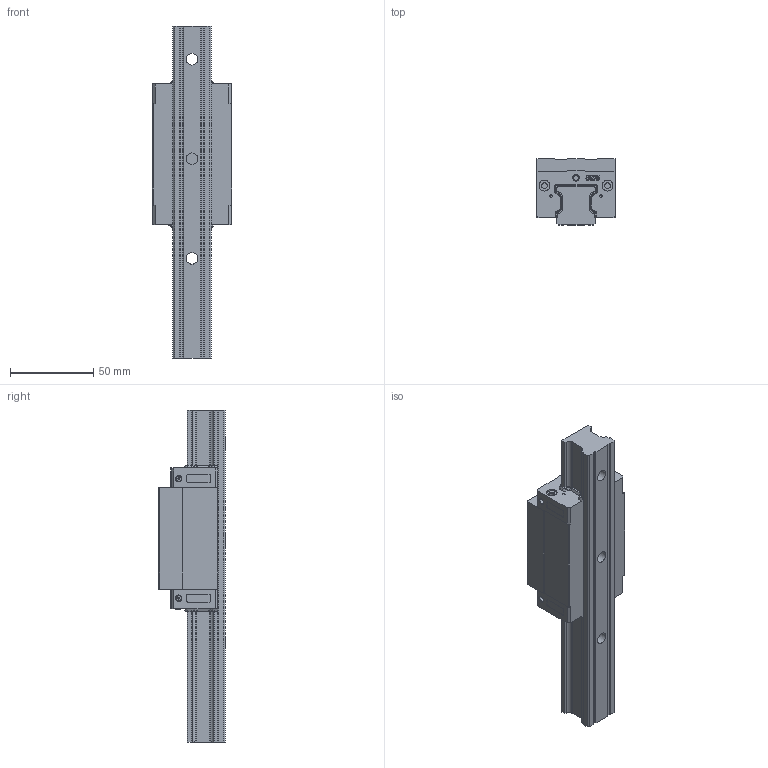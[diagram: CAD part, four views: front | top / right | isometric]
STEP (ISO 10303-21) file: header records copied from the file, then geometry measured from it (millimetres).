
FILE_DESCRIPTION(/* description */ (''),/* implementation_level */ '2;1');
FILE_NAME(/* name */ 'SGH25B.stp',/* time_stamp */ '2021-05-27T16:17:27+08:00',/* author */ (''),/* organization */ (''),/* preprocessor_version */ 'ST-DEVELOPER v15',/* originating_system */ 'SIEMENS PLM Software NX 8.5',/* authorisation */ '');
FILE_SCHEMA (('CONFIG_CONTROL_DESIGN'));
Length unit declared in the file: millimetre
Products named in the file (1): SGH25B
Bounding box: 48 x 40 x 200 mm (x, y, z)
Volume: 187262.5 mm3; surface area: 44818.9 mm2
Topology: 2 solids, 6 shells, 481 faces, 1296 edges, 870 vertices
Faces by surface type: plane 220, extrusion 114, cylinder 104, cone 39, bspline 4
Full cylindrical faces by diameter (mm): 1 x4, 1.6 x4, 3.2 x4, 3.3 x4, 3.5 x4, 5 x4, 6.5 x4, 7 x3, 11 x3
Entity records: 17353 total; most frequent: CARTESIAN_POINT 5853, ORIENTED_EDGE 2436, DIRECTION 2053, EDGE_CURVE 1218, VERTEX_POINT 837, VECTOR 775, LINE 661, AXIS2_PLACEMENT_3D 639
